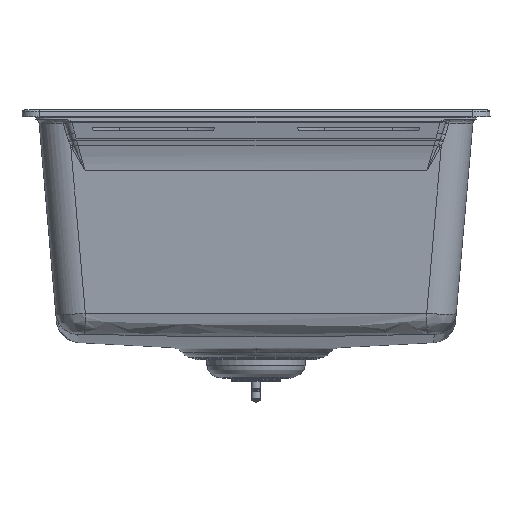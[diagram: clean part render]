
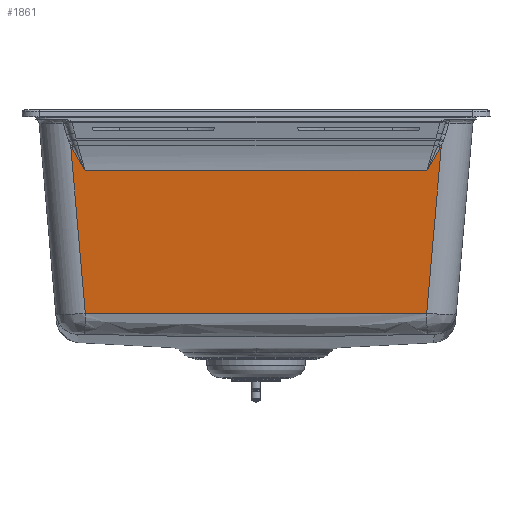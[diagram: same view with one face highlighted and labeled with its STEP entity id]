
A CAD part, left-side view. The second image highlights one B-rep face of the part: STEP entity #1861.
In plain terms, the highlighted planar face has unit normal (-0.996, 0, -0.087).
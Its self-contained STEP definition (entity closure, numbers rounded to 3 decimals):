
#83=(
BOUNDED_CURVE()
B_SPLINE_CURVE(2,(#71823,#71824,#71825),.UNSPECIFIED.,.F.,.F.)
B_SPLINE_CURVE_WITH_KNOTS((3,3),(-1.562,0.),.UNSPECIFIED.)
CURVE()
GEOMETRIC_REPRESENTATION_ITEM()
RATIONAL_B_SPLINE_CURVE((1.,1.,1.))
REPRESENTATION_ITEM('')
);
#84=(
BOUNDED_CURVE()
B_SPLINE_CURVE(2,(#71826,#71827,#71828),.UNSPECIFIED.,.F.,.F.)
B_SPLINE_CURVE_WITH_KNOTS((3,3),(-1.562,0.),.UNSPECIFIED.)
CURVE()
GEOMETRIC_REPRESENTATION_ITEM()
RATIONAL_B_SPLINE_CURVE((1.,1.,1.))
REPRESENTATION_ITEM('')
);
#1861=ADVANCED_FACE('',(#3348),#26313,.T.);
#3348=FACE_OUTER_BOUND('',#4937,.T.);
#4937=EDGE_LOOP('',(#12703,#12704,#12705,#12706,#12707,#12708,#12709,#12710));
#12703=ORIENTED_EDGE('',*,*,#16998,.F.);
#12704=ORIENTED_EDGE('',*,*,#17053,.T.);
#12705=ORIENTED_EDGE('',*,*,#17033,.F.);
#12706=ORIENTED_EDGE('',*,*,#17114,.F.);
#12707=ORIENTED_EDGE('',*,*,#17127,.T.);
#12708=ORIENTED_EDGE('',*,*,#17254,.T.);
#12709=ORIENTED_EDGE('',*,*,#17116,.T.);
#12710=ORIENTED_EDGE('',*,*,#17115,.F.);
#16998=EDGE_CURVE('',#25240,#25241,#19862,.T.);
#17033=EDGE_CURVE('',#25258,#25260,#19883,.T.);
#17053=EDGE_CURVE('',#25240,#25260,#19892,.T.);
#17114=EDGE_CURVE('',#25257,#25258,#83,.T.);
#17115=EDGE_CURVE('',#25241,#25243,#84,.T.);
#17116=EDGE_CURVE('',#25294,#25243,#19919,.T.);
#17127=EDGE_CURVE('',#25257,#25293,#19925,.T.);
#17254=EDGE_CURVE('',#25293,#25294,#19993,.T.);
#19862=B_SPLINE_CURVE_WITH_KNOTS('',3,(#71422,#71423,#71424,#71425,#71426,
#71427),.UNSPECIFIED.,.F.,.F.,(4,2,4),(-2.388,-2.383,
0.),.UNSPECIFIED.);
#19883=B_SPLINE_CURVE_WITH_KNOTS('',3,(#71562,#71563,#71564,#71565,#71566,
#71567),.UNSPECIFIED.,.F.,.F.,(4,2,4),(-2.383,0.,
0.004),.UNSPECIFIED.);
#19892=B_SPLINE_CURVE_WITH_KNOTS('',1,(#71621,#71622),.UNSPECIFIED.,.F.,
 .F.,(2,2),(-299.443,0.),.UNSPECIFIED.);
#19919=B_SPLINE_CURVE_WITH_KNOTS('',1,(#71829,#71830),.UNSPECIFIED.,.F.,
 .F.,(2,2),(-147.978,0.),.UNSPECIFIED.);
#19925=B_SPLINE_CURVE_WITH_KNOTS('',1,(#71864,#71865),.UNSPECIFIED.,.F.,
 .F.,(2,2),(-147.978,0.),.UNSPECIFIED.);
#19993=B_SPLINE_CURVE_WITH_KNOTS('',3,(#72363,#72364,#72365,#72366,#72367,
#72368),.UNSPECIFIED.,.F.,.F.,(4,1,1,4),(-299.089,-213.635,
-128.181,0.),.UNSPECIFIED.);
#25240=VERTEX_POINT('',#70551);
#25241=VERTEX_POINT('',#70552);
#25243=VERTEX_POINT('',#70554);
#25257=VERTEX_POINT('',#70568);
#25258=VERTEX_POINT('',#70569);
#25260=VERTEX_POINT('',#70571);
#25293=VERTEX_POINT('',#70604);
#25294=VERTEX_POINT('',#70605);
#26313=PLANE('',#30045);
#30045=AXIS2_PLACEMENT_3D('',#67877,#33633,$);
#33633=DIRECTION('',(-0.996,0.,-0.087));
#67877=CARTESIAN_POINT('',(-239.586,-194.961,-16.427));
#70551=CARTESIAN_POINT('',(-236.345,-149.721,-53.468));
#70552=CARTESIAN_POINT('',(-238.147,-161.665,-32.875));
#70554=CARTESIAN_POINT('',(-238.268,-162.367,-31.485));
#70568=CARTESIAN_POINT('',(-238.268,162.367,-31.485));
#70569=CARTESIAN_POINT('',(-238.147,161.665,-32.875));
#70571=CARTESIAN_POINT('',(-236.345,149.721,-53.468));
#70604=CARTESIAN_POINT('',(-225.42,149.519,-178.343));
#70605=CARTESIAN_POINT('',(-225.42,-149.519,-178.343));
#71422=CARTESIAN_POINT('',(-236.345,-149.721,-53.468));
#71423=CARTESIAN_POINT('',(-236.346,-149.729,-53.456));
#71424=CARTESIAN_POINT('',(-236.347,-149.736,-53.444));
#71425=CARTESIAN_POINT('',(-236.939,-153.878,-46.674));
#71426=CARTESIAN_POINT('',(-237.532,-158.016,-39.906));
#71427=CARTESIAN_POINT('',(-238.147,-161.665,-32.875));
#71562=CARTESIAN_POINT('',(-238.147,161.665,-32.875));
#71563=CARTESIAN_POINT('',(-237.532,158.016,-39.906));
#71564=CARTESIAN_POINT('',(-236.939,153.879,-46.674));
#71565=CARTESIAN_POINT('',(-236.347,149.736,-53.444));
#71566=CARTESIAN_POINT('',(-236.346,149.729,-53.456));
#71567=CARTESIAN_POINT('',(-236.345,149.721,-53.468));
#71621=CARTESIAN_POINT('',(-236.345,-149.721,-53.468));
#71622=CARTESIAN_POINT('',(-236.345,149.721,-53.468));
#71823=CARTESIAN_POINT('',(-238.268,162.367,-31.485));
#71824=CARTESIAN_POINT('',(-238.206,162.015,-32.2));
#71825=CARTESIAN_POINT('',(-238.147,161.665,-32.875));
#71826=CARTESIAN_POINT('',(-238.147,-161.665,-32.875));
#71827=CARTESIAN_POINT('',(-238.206,-162.015,-32.2));
#71828=CARTESIAN_POINT('',(-238.268,-162.367,-31.485));
#71829=CARTESIAN_POINT('',(-225.42,-149.519,-178.343));
#71830=CARTESIAN_POINT('',(-238.268,-162.367,-31.485));
#71864=CARTESIAN_POINT('',(-238.268,162.367,-31.485));
#71865=CARTESIAN_POINT('',(-225.42,149.519,-178.343));
#72363=CARTESIAN_POINT('',(-225.42,149.519,-178.343));
#72364=CARTESIAN_POINT('',(-225.353,121.045,-179.103));
#72365=CARTESIAN_POINT('',(-225.249,64.09,-180.302));
#72366=CARTESIAN_POINT('',(-225.208,-35.607,-180.766));
#72367=CARTESIAN_POINT('',(-225.32,-106.809,-179.483));
#72368=CARTESIAN_POINT('',(-225.42,-149.519,-178.343));
